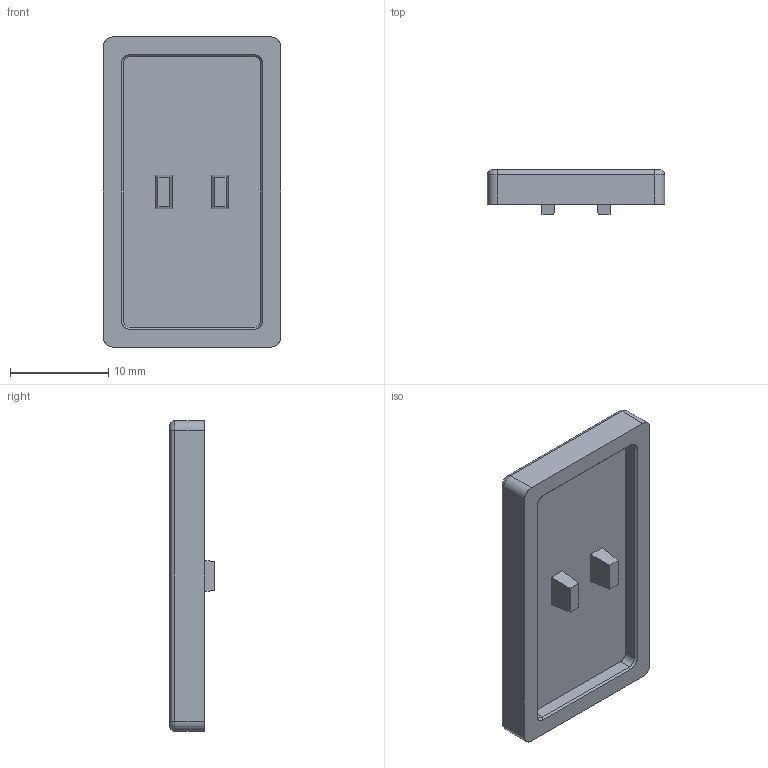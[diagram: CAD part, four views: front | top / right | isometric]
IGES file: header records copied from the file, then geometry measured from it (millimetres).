
Start section: SolidWorks IGES file using analytic representation for surfaces
Global section: file name: G:\byScottua\Keyboards\Kailh\1x1.75.IGS; native system: SolidWorks 2018; preprocessor: SolidWorks 2018; author: PHFHXE; date: 200324.122153; units: millimetre
Bounding box: 18 x 4.5 x 31.5 mm (x, y, z)
Surface area: 1608.2 mm2 (no closed solid volume)
Topology: 0 solids, 0 shells, 56 faces, 549 edges, 549 vertices
Faces by surface type: bspline 40, revolution 16
